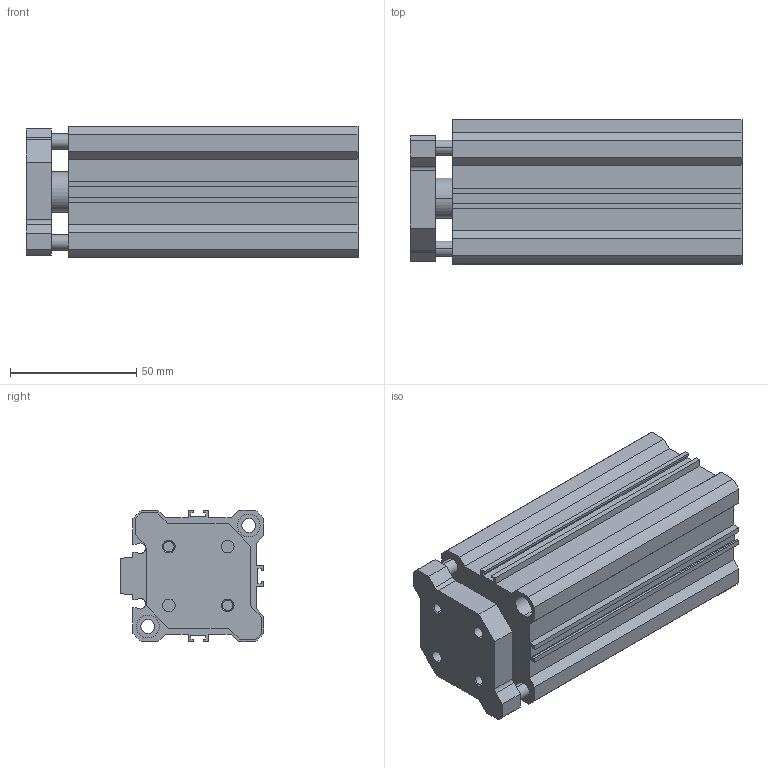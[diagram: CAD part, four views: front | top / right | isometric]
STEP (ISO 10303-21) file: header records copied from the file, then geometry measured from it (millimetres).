
FILE_DESCRIPTION (( 'STEP AP203' ), '1' );
FILE_NAME ('CCMG40-75.STEP', '2020-04-01T18:46:01', ( '' ), ( '' ), 'SwSTEP 2.0', 'SolidWorks 2019', '' );
FILE_SCHEMA (( 'CONFIG_CONTROL_DESIGN' ));
Length unit declared in the file: millimetre
Products named in the file (1): CCMG40-75
Bounding box: 131.5 x 57 x 52 mm (x, y, z)
Volume: 218016.5 mm3; surface area: 76205.1 mm2
Topology: 2 solids, 2 shells, 164 faces, 428 edges, 278 vertices
Faces by surface type: plane 92, cylinder 56, cone 16
Entity records: 5099 total; most frequent: DIRECTION 878, CARTESIAN_POINT 867, ORIENTED_EDGE 848, EDGE_CURVE 424, VECTOR 300, LINE 300, AXIS2_PLACEMENT_3D 289, VERTEX_POINT 278
